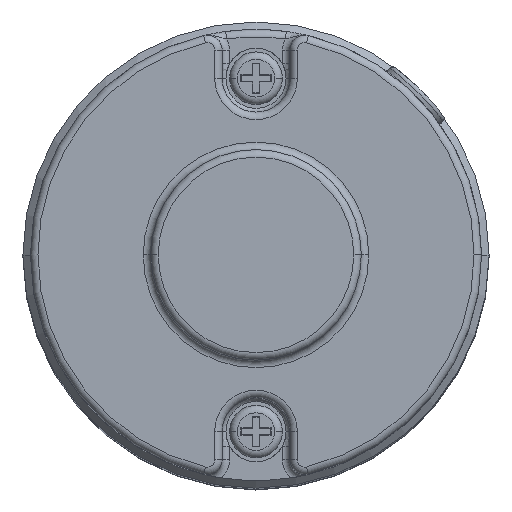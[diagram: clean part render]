
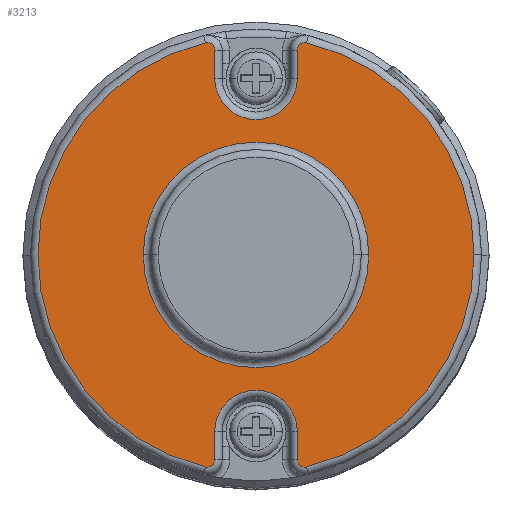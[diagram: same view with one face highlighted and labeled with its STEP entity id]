
A CAD part, top view. The second image highlights one B-rep face of the part: STEP entity #3213.
In plain terms, the highlighted planar face has unit normal (0, 0, 1).
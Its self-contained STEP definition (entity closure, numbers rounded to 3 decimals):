
#136 = VERTEX_POINT ( 'NONE', #724 ) ;
#188 = EDGE_CURVE ( 'NONE', #4868, #4368, #2268, .T. ) ;
#230 = FACE_OUTER_BOUND ( 'NONE', #8122, .T. ) ;
#261 = DIRECTION ( 'NONE',  ( 1., 0., 0. ) ) ;
#344 = EDGE_CURVE ( 'NONE', #3555, #1681, #3300, .T. ) ;
#410 = EDGE_CURVE ( 'NONE', #136, #1591, #2149, .T. ) ;
#433 = VECTOR ( 'NONE', #3103, 1000. ) ;
#466 = EDGE_CURVE ( 'NONE', #731, #6632, #3623, .T. ) ;
#481 = CARTESIAN_POINT ( 'NONE',  ( -5.5, 27.235, 20.5 ) ) ;
#555 = ORIENTED_EDGE ( 'NONE', *, *, #188, .T. ) ;
#694 = CARTESIAN_POINT ( 'NONE',  ( 5.5, 23.5, 20.5 ) ) ;
#724 = CARTESIAN_POINT ( 'NONE',  ( 6.732, -28.208, 20.5 ) ) ;
#731 = VERTEX_POINT ( 'NONE', #1951 ) ;
#749 = ORIENTED_EDGE ( 'NONE', *, *, #5241, .T. ) ;
#799 = CARTESIAN_POINT ( 'NONE',  ( -5.5, -27.235, 20.5 ) ) ;
#940 = VERTEX_POINT ( 'NONE', #2982 ) ;
#1087 = DIRECTION ( 'NONE',  ( 1., 0., 0. ) ) ;
#1138 = ORIENTED_EDGE ( 'NONE', *, *, #410, .T. ) ;
#1209 = CARTESIAN_POINT ( 'NONE',  ( -6.5, -27.235, 20.5 ) ) ;
#1225 = CIRCLE ( 'NONE', #3209, 5.5 ) ;
#1285 = DIRECTION ( 'NONE',  ( 0., 0., -1. ) ) ;
#1403 = CARTESIAN_POINT ( 'NONE',  ( -5.5, -23.5, 20.5 ) ) ;
#1424 = CARTESIAN_POINT ( 'NONE',  ( 6.5, -27.235, 20.5 ) ) ;
#1558 = EDGE_CURVE ( 'NONE', #6632, #7738, #4854, .T. ) ;
#1564 = DIRECTION ( 'NONE',  ( 0., 1., 0. ) ) ;
#1591 = VERTEX_POINT ( 'NONE', #7933 ) ;
#1681 = VERTEX_POINT ( 'NONE', #6672 ) ;
#1717 = ORIENTED_EDGE ( 'NONE', *, *, #2506, .T. ) ;
#1723 = ORIENTED_EDGE ( 'NONE', *, *, #466, .T. ) ;
#1784 = CARTESIAN_POINT ( 'NONE',  ( -6.732, 28.208, 20.5 ) ) ;
#1833 = CARTESIAN_POINT ( 'NONE',  ( 15., 0., 20.5 ) ) ;
#1839 = DIRECTION ( 'NONE',  ( 0., 0., 1. ) ) ;
#1951 = CARTESIAN_POINT ( 'NONE',  ( -5.5, 23.5, 20.5 ) ) ;
#1966 = AXIS2_PLACEMENT_3D ( 'NONE', #2597, #1839, #5107 ) ;
#1969 = AXIS2_PLACEMENT_3D ( 'NONE', #6628, #2866, #3395 ) ;
#2055 = ORIENTED_EDGE ( 'NONE', *, *, #6005, .T. ) ;
#2149 = CIRCLE ( 'NONE', #6389, 29. ) ;
#2164 = DIRECTION ( 'NONE',  ( 0., 0., 1. ) ) ;
#2238 = AXIS2_PLACEMENT_3D ( 'NONE', #7775, #5956, #4010 ) ;
#2268 = CIRCLE ( 'NONE', #7279, 15. ) ;
#2384 = VERTEX_POINT ( 'NONE', #7871 ) ;
#2506 = EDGE_CURVE ( 'NONE', #8012, #940, #4997, .T. ) ;
#2597 = CARTESIAN_POINT ( 'NONE',  ( 0., 0., 20.5 ) ) ;
#2720 = DIRECTION ( 'NONE',  ( 1., 0., 0. ) ) ;
#2738 = DIRECTION ( 'NONE',  ( 0., 0., 1. ) ) ;
#2743 = EDGE_CURVE ( 'NONE', #7738, #7521, #4465, .T. ) ;
#2855 = EDGE_CURVE ( 'NONE', #2384, #8012, #4916, .T. ) ;
#2860 = CARTESIAN_POINT ( 'NONE',  ( 0., 0., 20.5 ) ) ;
#2866 = DIRECTION ( 'NONE',  ( 0., 0., 1. ) ) ;
#2967 = DIRECTION ( 'NONE',  ( 0., -1., 0. ) ) ;
#2972 = CARTESIAN_POINT ( 'NONE',  ( 5.5, -23.5, 20.5 ) ) ;
#2982 = CARTESIAN_POINT ( 'NONE',  ( 5.5, 23.5, 20.5 ) ) ;
#3103 = DIRECTION ( 'NONE',  ( 0., -1., 0. ) ) ;
#3170 = ORIENTED_EDGE ( 'NONE', *, *, #2743, .T. ) ;
#3187 = AXIS2_PLACEMENT_3D ( 'NONE', #1424, #8203, #4526 ) ;
#3209 = AXIS2_PLACEMENT_3D ( 'NONE', #5668, #1285, #8144 ) ;
#3213 = ADVANCED_FACE ( 'NONE', ( #230, #7194 ), #5254, .T. ) ;
#3300 = LINE ( 'NONE', #1403, #5574 ) ;
#3359 = CIRCLE ( 'NONE', #7596, 15. ) ;
#3395 = DIRECTION ( 'NONE',  ( 1., 0., 0. ) ) ;
#3418 = DIRECTION ( 'NONE',  ( 0., 1., 0. ) ) ;
#3424 = DIRECTION ( 'NONE',  ( 0., 0., -1. ) ) ;
#3438 = CARTESIAN_POINT ( 'NONE',  ( -15., 0., 20.5 ) ) ;
#3555 = VERTEX_POINT ( 'NONE', #799 ) ;
#3588 = DIRECTION ( 'NONE',  ( 1., 0., 0. ) ) ;
#3591 = CIRCLE ( 'NONE', #4254, 29. ) ;
#3623 = LINE ( 'NONE', #6659, #6520 ) ;
#3725 = DIRECTION ( 'NONE',  ( 0., 0., 1. ) ) ;
#3827 = ORIENTED_EDGE ( 'NONE', *, *, #6071, .T. ) ;
#3895 = EDGE_LOOP ( 'NONE', ( #555, #6557 ) ) ;
#4010 = DIRECTION ( 'NONE',  ( 1., 0., 0. ) ) ;
#4254 = AXIS2_PLACEMENT_3D ( 'NONE', #7622, #4423, #6342 ) ;
#4311 = ORIENTED_EDGE ( 'NONE', *, *, #7678, .T. ) ;
#4368 = VERTEX_POINT ( 'NONE', #3438 ) ;
#4423 = DIRECTION ( 'NONE',  ( 0., 0., 1. ) ) ;
#4465 = CIRCLE ( 'NONE', #1966, 29. ) ;
#4500 = AXIS2_PLACEMENT_3D ( 'NONE', #1209, #3725, #6274 ) ;
#4526 = DIRECTION ( 'NONE',  ( 1., 0., 0. ) ) ;
#4609 = EDGE_CURVE ( 'NONE', #7521, #3555, #7924, .T. ) ;
#4814 = CARTESIAN_POINT ( 'NONE',  ( 5.5, -27.235, 20.5 ) ) ;
#4854 = CIRCLE ( 'NONE', #1969, 1. ) ;
#4868 = VERTEX_POINT ( 'NONE', #1833 ) ;
#4885 = ORIENTED_EDGE ( 'NONE', *, *, #1558, .T. ) ;
#4916 = CIRCLE ( 'NONE', #6119, 1. ) ;
#4997 = LINE ( 'NONE', #694, #433 ) ;
#5107 = DIRECTION ( 'NONE',  ( 1., 0., 0. ) ) ;
#5173 = EDGE_CURVE ( 'NONE', #7321, #5667, #8080, .T. ) ;
#5180 = ORIENTED_EDGE ( 'NONE', *, *, #344, .T. ) ;
#5241 = EDGE_CURVE ( 'NONE', #5667, #136, #5422, .T. ) ;
#5254 = PLANE ( 'NONE',  #2238 ) ;
#5359 = CARTESIAN_POINT ( 'NONE',  ( 5.5, 27.235, 20.5 ) ) ;
#5371 = DIRECTION ( 'NONE',  ( 1., 0., 0. ) ) ;
#5379 = ORIENTED_EDGE ( 'NONE', *, *, #2855, .T. ) ;
#5422 = CIRCLE ( 'NONE', #3187, 1. ) ;
#5574 = VECTOR ( 'NONE', #3418, 1000. ) ;
#5667 = VERTEX_POINT ( 'NONE', #6882 ) ;
#5668 = CARTESIAN_POINT ( 'NONE',  ( 0., 23.5, 20.5 ) ) ;
#5884 = CIRCLE ( 'NONE', #6941, 5.5 ) ;
#5956 = DIRECTION ( 'NONE',  ( 0., 0., 1. ) ) ;
#6005 = EDGE_CURVE ( 'NONE', #940, #731, #1225, .T. ) ;
#6071 = EDGE_CURVE ( 'NONE', #1591, #2384, #3591, .T. ) ;
#6119 = AXIS2_PLACEMENT_3D ( 'NONE', #7782, #2164, #2720 ) ;
#6274 = DIRECTION ( 'NONE',  ( 1., 0., 0. ) ) ;
#6342 = DIRECTION ( 'NONE',  ( 1., 0., 0. ) ) ;
#6389 = AXIS2_PLACEMENT_3D ( 'NONE', #7692, #2738, #261 ) ;
#6453 = ORIENTED_EDGE ( 'NONE', *, *, #4609, .T. ) ;
#6520 = VECTOR ( 'NONE', #1564, 1000. ) ;
#6557 = ORIENTED_EDGE ( 'NONE', *, *, #7619, .T. ) ;
#6628 = CARTESIAN_POINT ( 'NONE',  ( -6.5, 27.235, 20.5 ) ) ;
#6632 = VERTEX_POINT ( 'NONE', #481 ) ;
#6659 = CARTESIAN_POINT ( 'NONE',  ( -5.5, 27.235, 20.5 ) ) ;
#6672 = CARTESIAN_POINT ( 'NONE',  ( -5.5, -23.5, 20.5 ) ) ;
#6741 = CARTESIAN_POINT ( 'NONE',  ( 0., -23.5, 20.5 ) ) ;
#6756 = DIRECTION ( 'NONE',  ( 0., 0., -1. ) ) ;
#6882 = CARTESIAN_POINT ( 'NONE',  ( 5.5, -27.235, 20.5 ) ) ;
#6891 = VECTOR ( 'NONE', #2967, 1000. ) ;
#6941 = AXIS2_PLACEMENT_3D ( 'NONE', #6741, #7975, #3588 ) ;
#6987 = ORIENTED_EDGE ( 'NONE', *, *, #5173, .T. ) ;
#7194 = FACE_BOUND ( 'NONE', #3895, .T. ) ;
#7279 = AXIS2_PLACEMENT_3D ( 'NONE', #7945, #6756, #1087 ) ;
#7321 = VERTEX_POINT ( 'NONE', #2972 ) ;
#7521 = VERTEX_POINT ( 'NONE', #7859 ) ;
#7596 = AXIS2_PLACEMENT_3D ( 'NONE', #2860, #3424, #5371 ) ;
#7619 = EDGE_CURVE ( 'NONE', #4368, #4868, #3359, .T. ) ;
#7622 = CARTESIAN_POINT ( 'NONE',  ( 0., 0., 20.5 ) ) ;
#7678 = EDGE_CURVE ( 'NONE', #1681, #7321, #5884, .T. ) ;
#7692 = CARTESIAN_POINT ( 'NONE',  ( 0., 0., 20.5 ) ) ;
#7738 = VERTEX_POINT ( 'NONE', #1784 ) ;
#7775 = CARTESIAN_POINT ( 'NONE',  ( 0., 0., 20.5 ) ) ;
#7782 = CARTESIAN_POINT ( 'NONE',  ( 6.5, 27.235, 20.5 ) ) ;
#7859 = CARTESIAN_POINT ( 'NONE',  ( -6.732, -28.208, 20.5 ) ) ;
#7871 = CARTESIAN_POINT ( 'NONE',  ( 6.732, 28.208, 20.5 ) ) ;
#7924 = CIRCLE ( 'NONE', #4500, 1. ) ;
#7933 = CARTESIAN_POINT ( 'NONE',  ( 29., 0., 20.5 ) ) ;
#7945 = CARTESIAN_POINT ( 'NONE',  ( 0., 0., 20.5 ) ) ;
#7975 = DIRECTION ( 'NONE',  ( 0., 0., -1. ) ) ;
#8012 = VERTEX_POINT ( 'NONE', #5359 ) ;
#8080 = LINE ( 'NONE', #4814, #6891 ) ;
#8122 = EDGE_LOOP ( 'NONE', ( #6987, #749, #1138, #3827, #5379, #1717, #2055, #1723, #4885, #3170, #6453, #5180, #4311 ) ) ;
#8144 = DIRECTION ( 'NONE',  ( 1., 0., 0. ) ) ;
#8203 = DIRECTION ( 'NONE',  ( 0., 0., 1. ) ) ;
